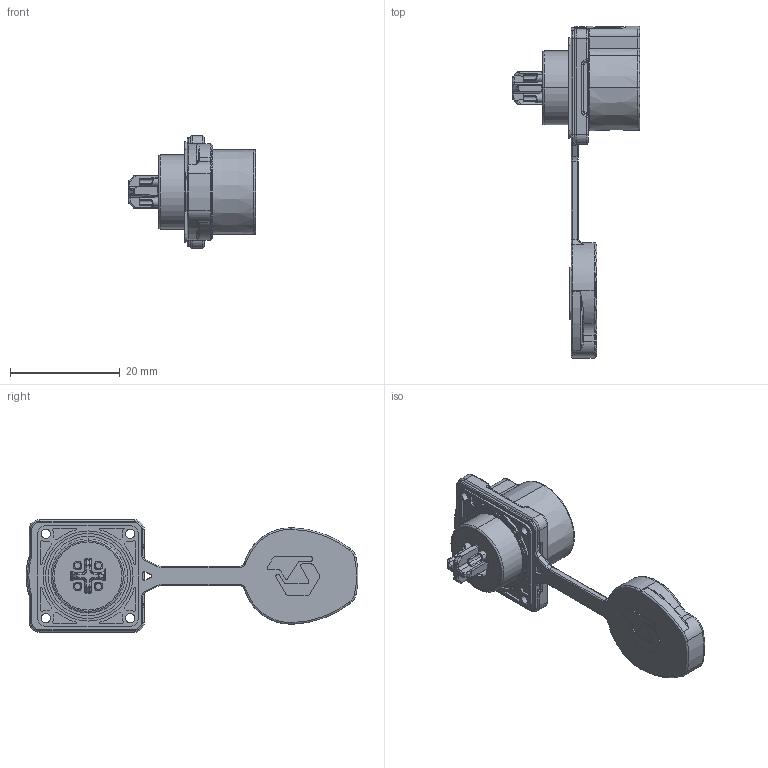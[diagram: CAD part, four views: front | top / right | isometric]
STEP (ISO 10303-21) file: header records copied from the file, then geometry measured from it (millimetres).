
FILE_DESCRIPTION (( 'STEP AP203' ), '1' );
FILE_NAME ('PLG14 4芯四孔安装插座反装.STEP', '2026-03-20T01:28:52', ( '' ), ( '' ), 'SwSTEP 2.0', 'SolidWorks 2024', '' );
FILE_SCHEMA (( 'CONFIG_CONTROL_DESIGN' ));
Length unit declared in the file: millimetre
Products named in the file (1): PLG14 4芯四孔安装插座反装
Bounding box: 23.2 x 60.57 x 20.5 mm (x, y, z)
Volume: 3910.3 mm3; surface area: 5037.3 mm2
Topology: 1 solids, 1 shells, 1321 faces, 3268 edges, 1961 vertices
Faces by surface type: cylinder 498, plane 333, torus 229, bspline 194, cone 47, sphere 20
Entity records: 44762 total; most frequent: CARTESIAN_POINT 14723, ORIENTED_EDGE 6436, DIRECTION 6198, EDGE_CURVE 3218, AXIS2_PLACEMENT_3D 2452, VERTEX_POINT 1953, EDGE_LOOP 1393, CIRCLE 1324
